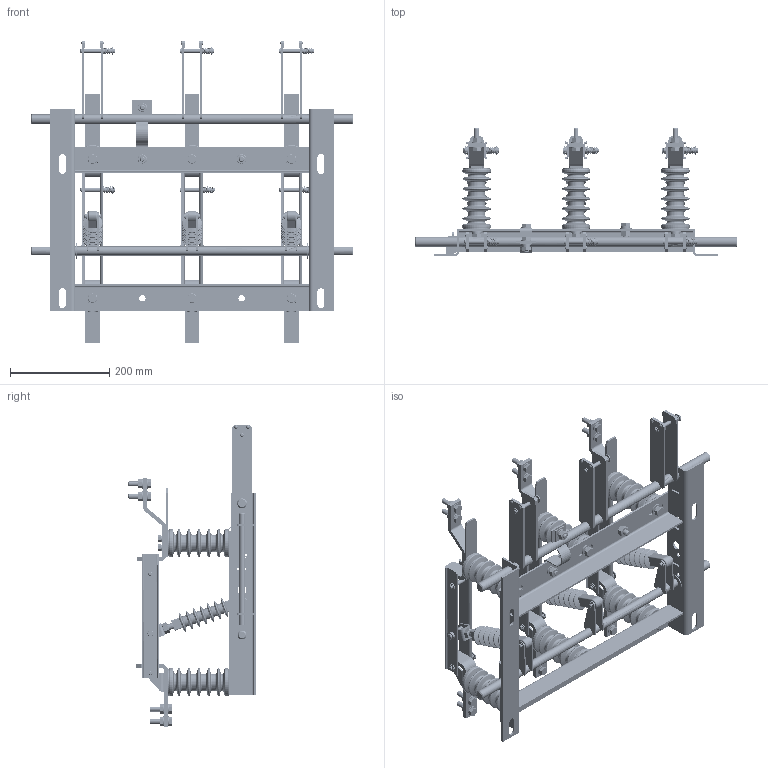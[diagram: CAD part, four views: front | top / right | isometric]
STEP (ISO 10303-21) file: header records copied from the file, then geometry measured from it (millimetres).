
FILE_DESCRIPTION (( 'STEP AP214' ), '1' );
FILE_NAME ('Ðàçúåäèíèòåëü âûñîêîâîëüòíûé ÐÂÇ-10630-I-ÓÕË2 (áåç ïðèâ).STEP', '2023-02-06T06:48:39', ( '' ), ( '' ), 'SwSTEP 2.0', 'SolidWorks 2018', '' );
FILE_SCHEMA (( 'AUTOMOTIVE_DESIGN' ));
Length unit declared in the file: millimetre
Products named in the file (1): Ðàçúåäèíèòåëü âûñîêîâîëüòíûé ÐÂÇ-10630-I-ÓÕË2 (áåç ïðèâ)
Bounding box: 650 x 257.23 x 609.5 mm (x, y, z)
Volume: 3432609 mm3; surface area: 1164672.2 mm2
Topology: 1 solids, 1 shells, 2644 faces, 6588 edges, 4145 vertices
Faces by surface type: plane 1534, cylinder 703, cone 225, torus 161, sphere 12, bspline 9
Full cylindrical faces by diameter (mm): 4 x18, 8 x51, 8.3 x6, 8.4 x15, 8.5 x12, 8.642 x3, 8.677 x5, 8.716 x1, 8.898 x3, 8.909 x5, 9 x12, 9.034 x3, 9.521 x2, 9.652 x5, 9.927 x2, 10 x15, 10.5 x2, 12 x18, 12.1 x2, 12.879 x5, 13 x10, 13.981 x5, 14.399 x5, 16 x21, 16.15 x3, 18 x2, 18.1 x2, 18.302 x4, 19.737 x3, 20 x28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
Entity records: 134516 total; most frequent: CARTESIAN_POINT 46360, DIRECTION 12394, ORIENTED_EDGE 11122, EDGE_CURVE 5561, AXIS2_PLACEMENT_3D 4719, VERTEX_POINT 3865, EDGE_LOOP 3842, FACE_OUTER_BOUND 3163
